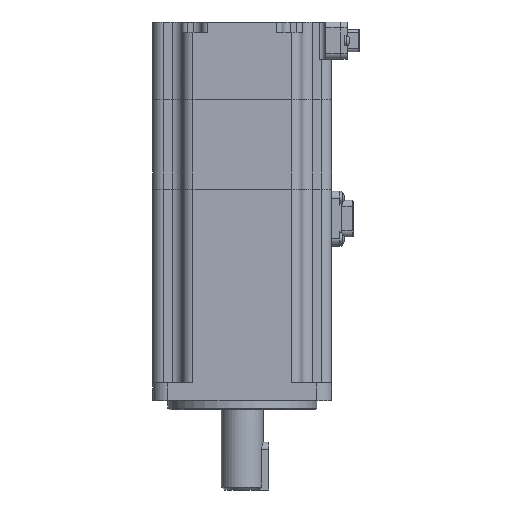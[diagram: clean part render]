
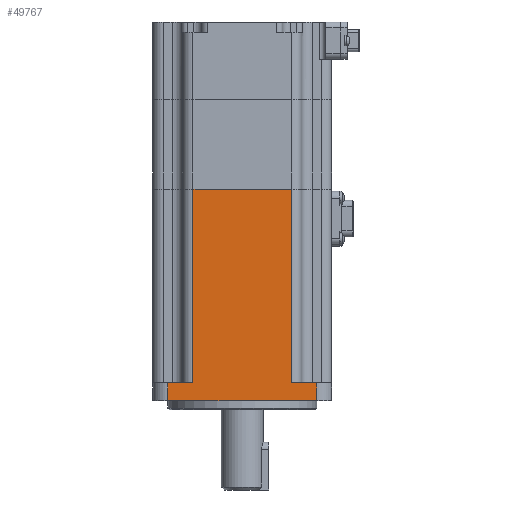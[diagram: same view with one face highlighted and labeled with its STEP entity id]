
A CAD part, front view. The second image highlights one B-rep face of the part: STEP entity #49767.
In plain terms, the highlighted planar face has unit normal (0, -1, 0).
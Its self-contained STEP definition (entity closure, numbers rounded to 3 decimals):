
#384 = EDGE_CURVE ( 'NONE', #35106, #18845, #10667, .T. ) ;
#1285 = LINE ( 'NONE', #5411, #21902 ) ;
#2022 = DIRECTION ( 'NONE',  ( 0., 0., 1. ) ) ;
#2174 = CARTESIAN_POINT ( 'NONE',  ( -25., -30., 74. ) ) ;
#2576 = VECTOR ( 'NONE', #2022, 1000. ) ;
#3611 = VECTOR ( 'NONE', #19459, 1000. ) ;
#3758 = VECTOR ( 'NONE', #27385, 1000. ) ;
#4103 = LINE ( 'NONE', #25493, #35822 ) ;
#4274 = LINE ( 'NONE', #32805, #11110 ) ;
#4531 = EDGE_CURVE ( 'NONE', #45552, #9767, #43384, .T. ) ;
#4882 = VECTOR ( 'NONE', #27965, 1000. ) ;
#5411 = CARTESIAN_POINT ( 'NONE',  ( -30., -30., 74. ) ) ;
#8121 = DIRECTION ( 'NONE',  ( -1., 0., 0. ) ) ;
#8794 = PLANE ( 'NONE',  #33112 ) ;
#9064 = DIRECTION ( 'NONE',  ( 0., 0., 1. ) ) ;
#9767 = VERTEX_POINT ( 'NONE', #14861 ) ;
#9847 = CARTESIAN_POINT ( 'NONE',  ( 25., -30., 74. ) ) ;
#10667 = LINE ( 'NONE', #9847, #3758 ) ;
#11110 = VECTOR ( 'NONE', #8121, 1000. ) ;
#12397 = EDGE_CURVE ( 'NONE', #19822, #32544, #1285, .T. ) ;
#14255 = ORIENTED_EDGE ( 'NONE', *, *, #54266, .T. ) ;
#14379 = CARTESIAN_POINT ( 'NONE',  ( -16.5, -30., -86.632 ) ) ;
#14861 = CARTESIAN_POINT ( 'NONE',  ( -25., -30., 9. ) ) ;
#17527 = EDGE_CURVE ( 'NONE', #35106, #30500, #48531, .T. ) ;
#18845 = VERTEX_POINT ( 'NONE', #44968 ) ;
#19459 = DIRECTION ( 'NONE',  ( -1., 0., 0. ) ) ;
#19656 = ORIENTED_EDGE ( 'NONE', *, *, #4531, .T. ) ;
#19822 = VERTEX_POINT ( 'NONE', #23116 ) ;
#21708 = CARTESIAN_POINT ( 'NONE',  ( 16.5, -30., 9. ) ) ;
#21863 = CARTESIAN_POINT ( 'NONE',  ( 25., -30., 3. ) ) ;
#21902 = VECTOR ( 'NONE', #47094, 1000. ) ;
#23040 = DIRECTION ( 'NONE',  ( 0., 0., -1. ) ) ;
#23116 = CARTESIAN_POINT ( 'NONE',  ( -16.5, -30., 74. ) ) ;
#24391 = EDGE_CURVE ( 'NONE', #45552, #19822, #39588, .T. ) ;
#25493 = CARTESIAN_POINT ( 'NONE',  ( 16.5, -30., -86.632 ) ) ;
#25514 = CARTESIAN_POINT ( 'NONE',  ( -30., -30., 74. ) ) ;
#26571 = CARTESIAN_POINT ( 'NONE',  ( -16.5, -30., 9. ) ) ;
#27385 = DIRECTION ( 'NONE',  ( 0., 0., 1. ) ) ;
#27965 = DIRECTION ( 'NONE',  ( -1., 0., 0. ) ) ;
#30500 = VERTEX_POINT ( 'NONE', #46953 ) ;
#32544 = VERTEX_POINT ( 'NONE', #32944 ) ;
#32805 = CARTESIAN_POINT ( 'NONE',  ( -30., -30., 9. ) ) ;
#32944 = CARTESIAN_POINT ( 'NONE',  ( 16.5, -30., 74. ) ) ;
#33112 = AXIS2_PLACEMENT_3D ( 'NONE', #25514, #42248, #9064 ) ;
#33793 = ORIENTED_EDGE ( 'NONE', *, *, #12397, .F. ) ;
#33837 = VECTOR ( 'NONE', #23040, 1000. ) ;
#34297 = FACE_OUTER_BOUND ( 'NONE', #44123, .T. ) ;
#35106 = VERTEX_POINT ( 'NONE', #21863 ) ;
#35822 = VECTOR ( 'NONE', #37572, 1000. ) ;
#37572 = DIRECTION ( 'NONE',  ( 0., 0., 1. ) ) ;
#38722 = EDGE_CURVE ( 'NONE', #45023, #32544, #4103, .T. ) ;
#38936 = ORIENTED_EDGE ( 'NONE', *, *, #53817, .T. ) ;
#39588 = LINE ( 'NONE', #14379, #2576 ) ;
#39623 = ORIENTED_EDGE ( 'NONE', *, *, #38722, .T. ) ;
#41006 = ORIENTED_EDGE ( 'NONE', *, *, #17527, .F. ) ;
#41241 = ORIENTED_EDGE ( 'NONE', *, *, #24391, .F. ) ;
#42248 = DIRECTION ( 'NONE',  ( 0., 1., 0. ) ) ;
#43384 = LINE ( 'NONE', #51352, #3611 ) ;
#43874 = LINE ( 'NONE', #2174, #33837 ) ;
#44123 = EDGE_LOOP ( 'NONE', ( #41006, #51719, #14255, #39623, #33793, #41241, #19656, #38936 ) ) ;
#44968 = CARTESIAN_POINT ( 'NONE',  ( 25., -30., 9. ) ) ;
#45023 = VERTEX_POINT ( 'NONE', #21708 ) ;
#45552 = VERTEX_POINT ( 'NONE', #26571 ) ;
#46953 = CARTESIAN_POINT ( 'NONE',  ( -25., -30., 3. ) ) ;
#47094 = DIRECTION ( 'NONE',  ( 1., 0., 0. ) ) ;
#48531 = LINE ( 'NONE', #49072, #4882 ) ;
#49072 = CARTESIAN_POINT ( 'NONE',  ( -30., -30., 3. ) ) ;
#49767 = ADVANCED_FACE ( 'NONE', ( #34297 ), #8794, .F. ) ;
#51352 = CARTESIAN_POINT ( 'NONE',  ( -30., -30., 9. ) ) ;
#51719 = ORIENTED_EDGE ( 'NONE', *, *, #384, .T. ) ;
#53817 = EDGE_CURVE ( 'NONE', #9767, #30500, #43874, .T. ) ;
#54266 = EDGE_CURVE ( 'NONE', #18845, #45023, #4274, .T. ) ;
